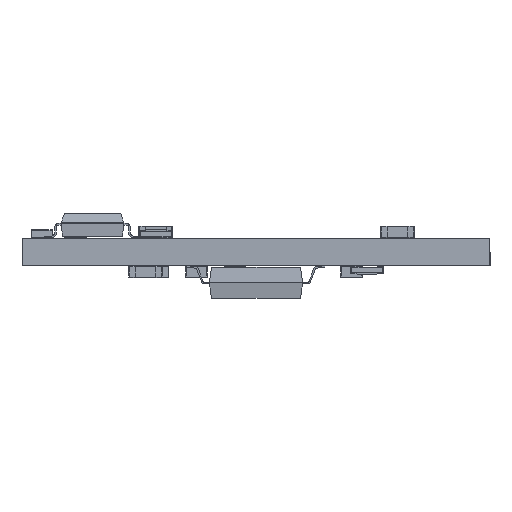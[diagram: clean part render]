
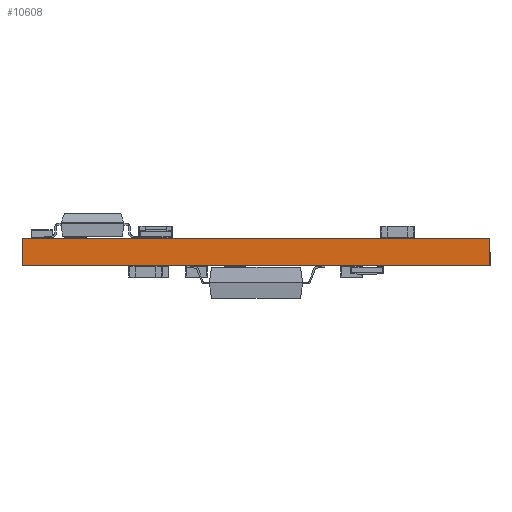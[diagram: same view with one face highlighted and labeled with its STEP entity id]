
A CAD part, front view. The second image highlights one B-rep face of the part: STEP entity #10608.
In plain terms, the highlighted planar face has unit normal (0, -1, 0).
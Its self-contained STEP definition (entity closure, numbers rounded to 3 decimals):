
#10608 = ADVANCED_FACE ( 'NONE', ( #80812 ), #168448, .F. ) ;
#13015 = DIRECTION ( 'NONE',  ( -1., 0., 0. ) ) ;
#25399 = VERTEX_POINT ( 'NONE', #151205 ) ;
#26037 = CARTESIAN_POINT ( 'NONE',  ( -14., -14., -0.03 ) ) ;
#37423 = EDGE_CURVE ( 'NONE', #162845, #25399, #48400, .T. ) ;
#46188 = VECTOR ( 'NONE', #109362, 1000. ) ;
#48400 = LINE ( 'NONE', #95201, #46188 ) ;
#50517 = LINE ( 'NONE', #26037, #89083 ) ;
#50657 = EDGE_CURVE ( 'NONE', #154827, #167249, #66690, .T. ) ;
#56098 = EDGE_CURVE ( 'NONE', #154827, #162845, #78689, .T. ) ;
#62872 = CARTESIAN_POINT ( 'NONE',  ( -14., -14., -0.03 ) ) ;
#64243 = ORIENTED_EDGE ( 'NONE', *, *, #56098, .T. ) ;
#64358 = ORIENTED_EDGE ( 'NONE', *, *, #37423, .T. ) ;
#66690 = LINE ( 'NONE', #67138, #70752 ) ;
#67138 = CARTESIAN_POINT ( 'NONE',  ( -14., -14., -1.69 ) ) ;
#68063 = CARTESIAN_POINT ( 'NONE',  ( 14., -14., -1.66 ) ) ;
#70102 = AXIS2_PLACEMENT_3D ( 'NONE', #90458, #75249, #128004 ) ;
#70752 = VECTOR ( 'NONE', #118229, 1000. ) ;
#75249 = DIRECTION ( 'NONE',  ( 0., 1., 0. ) ) ;
#78610 = ORIENTED_EDGE ( 'NONE', *, *, #135593, .T. ) ;
#78689 = LINE ( 'NONE', #124925, #145906 ) ;
#80812 = FACE_OUTER_BOUND ( 'NONE', #148712, .T. ) ;
#89083 = VECTOR ( 'NONE', #13015, 1000. ) ;
#90458 = CARTESIAN_POINT ( 'NONE',  ( -14., -14., -1.69 ) ) ;
#95201 = CARTESIAN_POINT ( 'NONE',  ( 14., -14., -1.69 ) ) ;
#109362 = DIRECTION ( 'NONE',  ( 0., 0., 1. ) ) ;
#118229 = DIRECTION ( 'NONE',  ( 0., 0., 1. ) ) ;
#124925 = CARTESIAN_POINT ( 'NONE',  ( -14., -14., -1.66 ) ) ;
#128004 = DIRECTION ( 'NONE',  ( 1., 0., 0. ) ) ;
#135593 = EDGE_CURVE ( 'NONE', #25399, #167249, #50517, .T. ) ;
#137743 = ORIENTED_EDGE ( 'NONE', *, *, #50657, .F. ) ;
#145906 = VECTOR ( 'NONE', #162552, 1000. ) ;
#148712 = EDGE_LOOP ( 'NONE', ( #64358, #78610, #137743, #64243 ) ) ;
#151205 = CARTESIAN_POINT ( 'NONE',  ( 14., -14., -0.03 ) ) ;
#151562 = CARTESIAN_POINT ( 'NONE',  ( -14., -14., -1.66 ) ) ;
#154827 = VERTEX_POINT ( 'NONE', #151562 ) ;
#162552 = DIRECTION ( 'NONE',  ( 1., 0., 0. ) ) ;
#162845 = VERTEX_POINT ( 'NONE', #68063 ) ;
#167249 = VERTEX_POINT ( 'NONE', #62872 ) ;
#168448 = PLANE ( 'NONE',  #70102 ) ;
